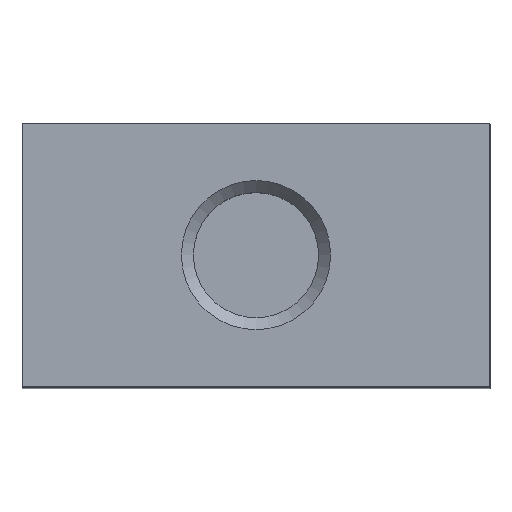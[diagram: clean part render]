
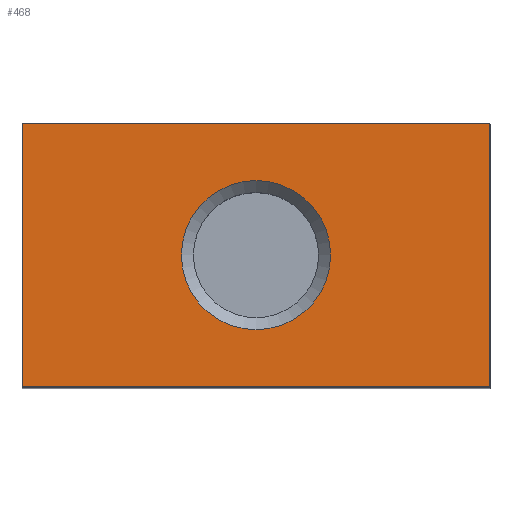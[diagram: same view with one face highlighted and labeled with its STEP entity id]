
A CAD part, top view. The second image highlights one B-rep face of the part: STEP entity #468.
In plain terms, the highlighted planar face has unit normal (0, 0, 1).
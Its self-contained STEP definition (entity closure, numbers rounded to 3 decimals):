
#257=CARTESIAN_POINT('',(5.1,0.,48.5));
#258=VERTEX_POINT('',#257);
#259=CARTESIAN_POINT('',(0.,0.,48.5));
#260=DIRECTION('',(0.0,0.0,-1.0));
#261=DIRECTION('',(1.0,0.0,0.0));
#262=AXIS2_PLACEMENT_3D('',#259,#260,#261);
#263=CIRCLE('',#262,5.1);
#264=EDGE_CURVE('',#258,#258,#263,.T.);
#335=CARTESIAN_POINT('',(16.,9.,48.5));
#336=VERTEX_POINT('',#335);
#337=CARTESIAN_POINT('',(16.,-9.,48.5));
#338=VERTEX_POINT('',#337);
#339=CARTESIAN_POINT('',(16.,9.,48.5));
#340=DIRECTION('',(0.0,-1.0,0.0));
#341=VECTOR('',#340,18.);
#342=LINE('',#339,#341);
#343=EDGE_CURVE('',#336,#338,#342,.T.);
#375=CARTESIAN_POINT('',(-16.,-9.,48.5));
#376=VERTEX_POINT('',#375);
#377=CARTESIAN_POINT('',(16.,-9.,48.5));
#378=DIRECTION('',(-1.0,0.0,0.0));
#379=VECTOR('',#378,32.);
#380=LINE('',#377,#379);
#381=EDGE_CURVE('',#338,#376,#380,.T.);
#406=CARTESIAN_POINT('',(-16.,9.,48.5));
#407=VERTEX_POINT('',#406);
#408=CARTESIAN_POINT('',(-16.,-9.,48.5));
#409=DIRECTION('',(0.0,1.0,0.0));
#410=VECTOR('',#409,18.);
#411=LINE('',#408,#410);
#412=EDGE_CURVE('',#376,#407,#411,.T.);
#437=CARTESIAN_POINT('',(-16.,9.,48.5));
#438=DIRECTION('',(1.0,0.0,0.0));
#439=VECTOR('',#438,32.);
#440=LINE('',#437,#439);
#441=EDGE_CURVE('',#407,#336,#440,.T.);
#454=CARTESIAN_POINT('',(0.,0.,48.5));
#455=DIRECTION('',(0.0,0.0,1.0));
#456=DIRECTION('',(1.0,0.0,0.0));
#457=AXIS2_PLACEMENT_3D('',#454,#455,#456);
#458=PLANE('',#457);
#459=ORIENTED_EDGE('',*,*,#343,.F.);
#460=ORIENTED_EDGE('',*,*,#441,.F.);
#461=ORIENTED_EDGE('',*,*,#412,.F.);
#462=ORIENTED_EDGE('',*,*,#381,.F.);
#463=EDGE_LOOP('',(#459,#460,#461,#462));
#464=FACE_OUTER_BOUND('',#463,.T.);
#465=ORIENTED_EDGE('',*,*,#264,.T.);
#466=EDGE_LOOP('',(#465));
#467=FACE_BOUND('',#466,.T.);
#468=ADVANCED_FACE('',(#464,#467),#458,.T.);
